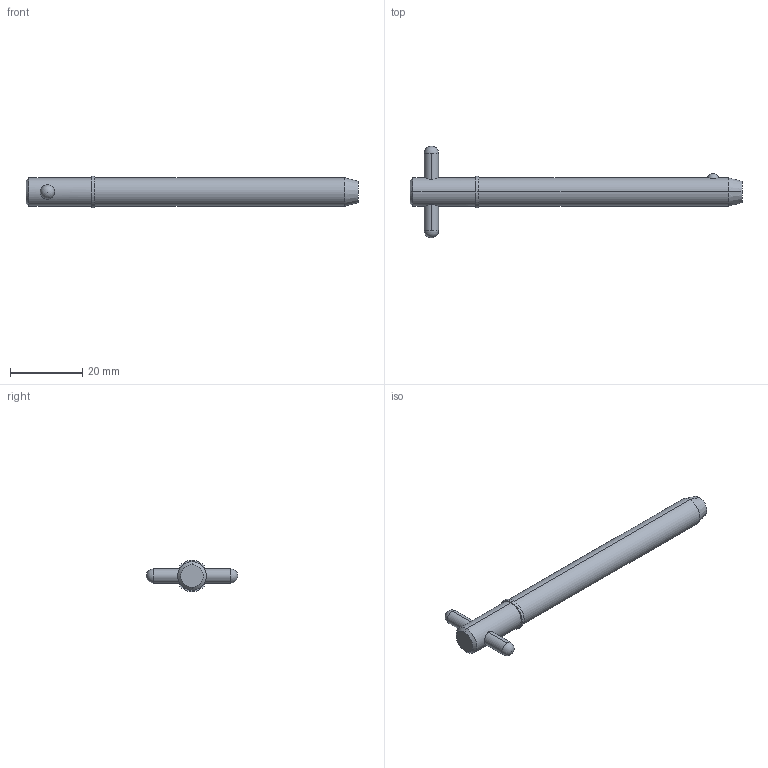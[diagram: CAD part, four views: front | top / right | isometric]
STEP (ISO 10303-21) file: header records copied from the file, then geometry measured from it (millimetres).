
FILE_DESCRIPTION (( 'STEP AP203' ), '1' );
FILE_NAME ('33018.W3125.step', '2024-11-19T17:09:39', ( '' ), ( '' ), 'SwSTEP 2.0', 'SolidWorks 2019', '' );
FILE_SCHEMA (( 'CONFIG_CONTROL_DESIGN' ));
Length unit declared in the file: millimetre
Products named in the file (3): 33018.W3125; Part2_33018.W3125; Part1_33018.W3125
Assembly tree (2 placements, depth 2):
  33018.W3125
    Part1_33018.W3125
    Part2_33018.W3125
Bounding box: 92.08 x 25.4 x 8.73 mm (x, y, z)
Volume: 4725.5 mm3; surface area: 2763.9 mm2
Topology: 2 solids, 2 shells, 22 faces, 47 edges, 30 vertices
Faces by surface type: cylinder 10, sphere 4, cone 4, plane 4
Entity records: 1013 total; most frequent: CARTESIAN_POINT 256, DIRECTION 110, ORIENTED_EDGE 82, AXIS2_PLACEMENT_3D 48, EDGE_CURVE 41, EDGE_LOOP 27, VERTEX_POINT 26, PERSON_AND_ORGANIZATION 26
